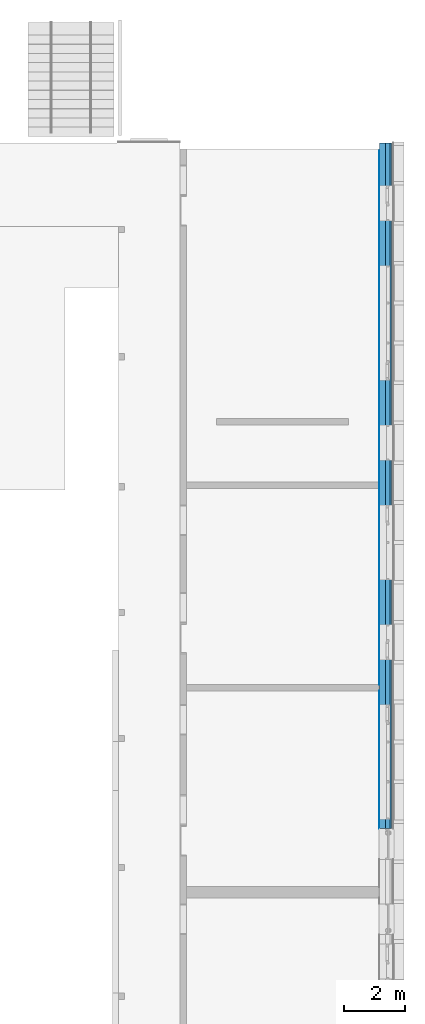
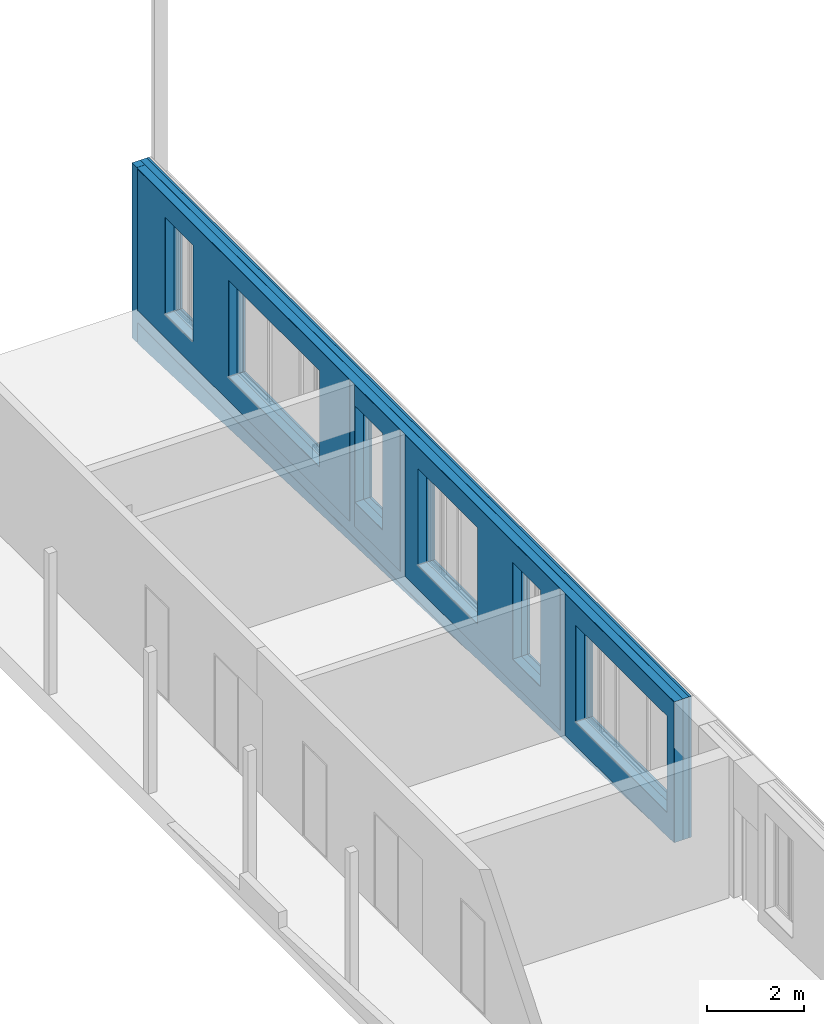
# One storey, part 59 of 65: 4 building element parts, 6 openings, 1 element without a shape of its own.
"""IFC2X3 building model written with IfcOpenShell, lengths in millimetres."""

from ifc_helpers import new_model, entity, si_unit, converted_unit, derived_unit, money_unit, direction, frame, origin_with_axes, origin_2d_with_axis, place, context, subcontext, project, spatial, polyline, rectangle, outline, extrude, boolean, faceted_brep, material, type_object, element, aggregate, save


model = new_model("IFC2X3")

# Units and contexts
model_context = context("Model", 3, precision=0.01, world=origin_with_axes(), true_north=direction((0.0, 1.0)))
body_context = subcontext(model_context, "Body", "Model", "MODEL_VIEW")
ifc_project = project(units=[si_unit("LENGTHUNIT", "METRE", prefix="MILLI"), si_unit("AREAUNIT", "SQUARE_METRE"), si_unit("VOLUMEUNIT", "CUBIC_METRE"), converted_unit("PLANEANGLEUNIT", "DEGREE", entity("IfcPlaneAngleMeasure", 0.0174532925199), si_unit("PLANEANGLEUNIT", "RADIAN"), dimensions=[0, 0, 0, 0, 0, 0, 0]), si_unit("SOLIDANGLEUNIT", "STERADIAN"), money_unit("EUR"), converted_unit("TIMEUNIT", "Year", entity("IfcTimeMeasure", 31556926.0), si_unit("TIMEUNIT", "SECOND"), dimensions=[0, 0, 1, 0, 0, 0, 0]), si_unit("MASSUNIT", "GRAM", prefix="KILO"), si_unit("THERMODYNAMICTEMPERATUREUNIT", "DEGREE_CELSIUS"), si_unit("LUMINOUSINTENSITYUNIT", "LUMEN"), si_unit("ENERGYUNIT", "JOULE", prefix="MEGA"), derived_unit("THERMALCONDUCTANCEUNIT", [(si_unit("POWERUNIT", "WATT"), 1), (si_unit("LENGTHUNIT", "METRE"), -1), (si_unit("THERMODYNAMICTEMPERATUREUNIT", "KELVIN"), -1)]), derived_unit("SPECIFICHEATCAPACITYUNIT", [(si_unit("ENERGYUNIT", "JOULE"), 1), (si_unit("MASSUNIT", "GRAM", prefix="KILO"), -1), (si_unit("THERMODYNAMICTEMPERATUREUNIT", "KELVIN"), -1)]), derived_unit("MASSDENSITYUNIT", [(si_unit("MASSUNIT", "GRAM", prefix="KILO"), 1), (si_unit("VOLUMEUNIT", "CUBIC_METRE"), -1)])], contexts=[model_context])

# Site, building, storey
site_placement = place(None, origin_with_axes())
site = spatial("IfcSite", under=ifc_project, at=site_placement, Name="Puškini 31, Narva", CompositionType="ELEMENT")
building_placement = place(site_placement, origin_with_axes())
building = spatial("IfcBuilding", under=site, at=building_placement, Name="Narva Riigigümnaasium", CompositionType="ELEMENT")
storey_placement = place(building_placement, frame((0.0, 0.0, -1320.0), z_axis=(0.0, 0.0, 1.0), x_axis=(1.0, 0.0, 0.0)))
storey = spatial("IfcBuildingStorey", under=building, at=storey_placement, Name="1.korrus -1.32", CompositionType="ELEMENT", Elevation=-1320.0)

# Wall, openings, building element parts
wall_type = type_object("IfcWallType", Name="G-VS-01 468", PredefinedType="NOTDEFINED")
wall_placement = place(storey_placement, frame((54000.000001, 194900.0, -1980.0), z_axis=(0.0, 0.0, 1.0), x_axis=(0.0, -1.0, 0.0)))
wall = element("IfcWall", 1, at=wall_placement, inside=storey, type_object=wall_type, Name="Välissein")
opening_1_placement = place(wall_placement, frame((16264.8487286, 0.0, 2580.0), z_axis=(0.0, 0.0, 1.0), x_axis=(1.0, 0.0, 0.0)))
element("IfcOpeningElement", 2, at=opening_1_placement, cuts=wall, Name="G-A-04", context=body_context, shape_type="SweptSolid", body=[
    extrude(rectangle(XDim=1150.0, YDim=2430.0, at=origin_2d_with_axis()), frame((0.0, 308.0, 1215.0), z_axis=(0.0, 1.0, 0.0), x_axis=(-1.0, 0.0, 0.0)), (0.0, 0.0, -1.0), 786.0),
    extrude(rectangle(XDim=1150.0, YDim=2430.0, at=origin_2d_with_axis()), frame((0.0, 308.0, 1215.0), z_axis=(0.0, -1.0, 0.0), x_axis=(-1.0, 0.0, 0.0)), (0.0, 0.0, -1.0), 618.0),
])
opening_2_placement = place(wall_placement, frame((9764.84872856, 0.0, 2580.0), z_axis=(0.0, 0.0, 1.0), x_axis=(1.0, 0.0, 0.0)))
element("IfcOpeningElement", 3, at=opening_2_placement, cuts=wall, Name="G-A-40", context=body_context, shape_type="SweptSolid", body=[
    extrude(rectangle(XDim=1150.0, YDim=2430.0, at=origin_2d_with_axis()), frame((0.0, 308.0, 1215.0), z_axis=(0.0, 1.0, 0.0), x_axis=(-1.0, 0.0, 0.0)), (0.0, 0.0, -1.0), 786.0),
    extrude(rectangle(XDim=1150.0, YDim=2430.0, at=origin_2d_with_axis()), frame((0.0, 308.0, 1215.0), z_axis=(0.0, -1.0, 0.0), x_axis=(-1.0, 0.0, 0.0)), (0.0, 0.0, -1.0), 618.0),
])
opening_3_placement = place(wall_placement, frame((13014.8487286, 0.0, 2580.0), z_axis=(0.0, 0.0, 1.0), x_axis=(1.0, 0.0, 0.0)))
element("IfcOpeningElement", 4, at=opening_3_placement, cuts=wall, Name="G-A-14", context=body_context, shape_type="SweptSolid", body=[
    extrude(rectangle(XDim=2450.0, YDim=2430.0, at=origin_2d_with_axis()), frame((0.0, 308.0, 1215.0), z_axis=(0.0, -1.0, 0.0), x_axis=(1.0, 0.0, 0.0)), (0.0, 0.0, 1.0), 786.0),
    extrude(rectangle(XDim=2450.0, YDim=2430.0, at=origin_2d_with_axis()), frame((0.0, 308.0, 1215.0), z_axis=(0.0, 1.0, 0.0), x_axis=(1.0, 0.0, 0.0)), (0.0, 0.0, 1.0), 618.0),
])
opening_4_placement = place(wall_placement, frame((5864.84872856, 0.0, 2580.0), z_axis=(0.0, 0.0, 1.0), x_axis=(1.0, 0.0, 0.0)))
element("IfcOpeningElement", 5, at=opening_4_placement, cuts=wall, Name="G-A-20", context=body_context, shape_type="SweptSolid", body=[
    extrude(rectangle(XDim=3750.0, YDim=2430.0, at=origin_2d_with_axis()), frame((0.0, 308.0, 1215.0), z_axis=(0.0, 1.0, 0.0), x_axis=(-1.0, 0.0, 0.0)), (0.0, 0.0, -1.0), 786.0),
    extrude(rectangle(XDim=3750.0, YDim=2430.0, at=origin_2d_with_axis()), frame((0.0, 308.0, 1215.0), z_axis=(0.0, -1.0, 0.0), x_axis=(-1.0, 0.0, 0.0)), (0.0, 0.0, -1.0), 618.0),
])
opening_5_placement = place(wall_placement, frame((1964.84872856, 0.0, 2580.0), z_axis=(0.0, 0.0, 1.0), x_axis=(1.0, 0.0, 0.0)))
element("IfcOpeningElement", 6, at=opening_5_placement, cuts=wall, Name="G-A-04", context=body_context, shape_type="SweptSolid", body=[
    extrude(rectangle(XDim=1150.0, YDim=2430.0, at=origin_2d_with_axis()), frame((0.0, 308.0, 1215.0), z_axis=(0.0, -1.0, 0.0), x_axis=(1.0, 0.0, 0.0)), (0.0, 0.0, 1.0), 786.0),
    extrude(rectangle(XDim=1150.0, YDim=2430.0, at=origin_2d_with_axis()), frame((0.0, 308.0, 1215.0), z_axis=(0.0, 1.0, 0.0), x_axis=(1.0, 0.0, 0.0)), (0.0, 0.0, 1.0), 618.0),
])
opening_6_placement = place(wall_placement, frame((20164.8487286, 0.0, 2580.0), z_axis=(0.0, 0.0, 1.0), x_axis=(1.0, 0.0, 0.0)))
element("IfcOpeningElement", 7, at=opening_6_placement, cuts=wall, Name="G-A-39", context=body_context, shape_type="SweptSolid", body=[
    extrude(rectangle(XDim=3750.0, YDim=2430.0, at=origin_2d_with_axis()), frame((0.0, 308.0, 1215.0), z_axis=(0.0, -1.0, 0.0), x_axis=(1.0, 0.0, 0.0)), (0.0, 0.0, 1.0), 786.0),
    extrude(rectangle(XDim=3750.0, YDim=2430.0, at=origin_2d_with_axis()), frame((0.0, 308.0, 1215.0), z_axis=(0.0, 1.0, 0.0), x_axis=(1.0, 0.0, 0.0)), (0.0, 0.0, 1.0), 618.0),
])
ifc_material_1 = material(Name="Salto-siseviimistlus-seinad")
building_element_part_1_placement = place(wall_placement, origin_with_axes())
building_element_part_1 = element("IfcBuildingElementPart", 8, at=building_element_part_1_placement, material=ifc_material_1, Name="Salto-siseviimistlus-seinad", context=body_context, shape_type="CSG", body=[
    boolean("DIFFERENCE", boolean("DIFFERENCE", boolean("DIFFERENCE", boolean("DIFFERENCE", boolean("DIFFERENCE", boolean("DIFFERENCE", boolean("DIFFERENCE", extrude(outline(polyline([(0.0, -10.0), (22339.8487286, -10.0), (22339.8487286, 0.0), (0.0, 0.0), (0.0, -10.0)])), origin_with_axes(), (0.0, 0.0, 1.0), 5539.82248474), faceted_brep([(17850.0000157, -10.0, 5535.0), (22339.8487286, -10.0, 5535.0), (22339.8487286, -10.0, 5539.82248474), (0.0, -10.0, 5539.82248474), (0.0, -10.0, 0.0), (22339.8487286, -10.0, 0.0), (22339.8487286, -10.0, 1997.41576605), (21884.8883511, -10.0, 1980.0), (17850.0000157, -10.0, 1980.0), (8979.66614925, -10.0, 1980.0), (250.0, -10.0, 1980.0), (250.0, -10.0, 5535.0), (8979.66614925, -10.0, 5535.0), (11060.0000373, -10.0, 1980.0), (9179.66614925, -10.0, 1980.0), (9179.66614925, -10.0, 5535.0), (11060.0000373, -10.0, 5535.0), (17650.0000157, -10.0, 1980.0), (11260.0000373, -10.0, 1980.0), (11260.0000373, -10.0, 5535.0), (17650.0000157, -10.0, 5535.0), (13786.6102383, -10.0, 1670.0), (250.0, -10.0, 1151.82204717), (250.0, -10.0, 1670.0), (22339.8487286, 0.0, 5535.0), (17850.0000157, 3.80616427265e-07, 5535.0), (22339.8487286, 0.0, 5539.82248474), (0.0, 0.0, 5539.82248474), (0.0, 0.0, 0.0), (22339.8487286, 0.0, 0.0), (22339.8487286, 0.0, 1997.41576605), (21884.8883511, 1.90873095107e-07, 1980.0), (17850.0000157, 1.8836487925e-06, 1980.0), (8979.66614925, 1.8836487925e-06, 1980.0), (250.0, -5.06154407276e-06, 1980.0), (250.0, -1.48313574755e-05, 5535.0), (8979.66614925, 1.12752474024e-06, 5535.0), (11060.0000373, 1.8836487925e-06, 1980.0), (9179.66614925, 1.8836487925e-06, 1980.0), (9179.66614925, 1.11069198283e-06, 5535.0), (11060.0000373, 9.52354639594e-07, 5535.0), (17650.0000157, 1.8836487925e-06, 1980.0), (11260.0000373, 1.8836487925e-06, 1980.0), (11260.0000373, 9.35514776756e-07, 5535.0), (17650.0000157, 3.97456290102e-07, 5535.0), (13786.6102383, -1.62997082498e-06, 1670.0), (250.0, -2.78556200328e-06, 1151.82204717), (250.0, -4.20961043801e-06, 1670.0)], [[[0, 1, 2, 3, 4, 5, 6, 7, 8], [9, 10, 11, 12], [13, 14, 15, 16], [17, 18, 19, 20], [21, 22, 23]], [[24, 1, 0, 25]], [[1, 24, 26, 2]], [[27, 3, 2, 26]], [[27, 28, 4, 3]], [[5, 4, 28, 29]], [[30, 6, 5, 29]], [[30, 31, 7, 6]], [[31, 32, 8, 7]], [[32, 25, 0, 8]], [[33, 34, 10, 9]], [[34, 35, 11, 10]], [[12, 11, 35, 36]], [[36, 33, 9, 12]], [[37, 38, 14, 13]], [[38, 39, 15, 14]], [[16, 15, 39, 40]], [[40, 37, 13, 16]], [[41, 42, 18, 17]], [[42, 43, 19, 18]], [[20, 19, 43, 44]], [[44, 41, 17, 20]], [[45, 46, 22, 21]], [[46, 47, 23, 22]], [[47, 45, 21, 23]], [[31, 30, 29, 28, 27, 26, 24, 25, 32], [33, 36, 35, 34], [37, 40, 39, 38], [41, 44, 43, 42], [46, 45, 47]]])), faceted_brep([(22339.8487286, 199.999993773, 5535.0), (199.999968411, 199.999993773, 5535.0), (199.999968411, 199.999993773, 5539.82248474), (22339.8487286, 200.0, 5539.82248474), (22339.8487286, 0.0, 5535.0), (199.999968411, 0.0, 5535.0), (199.999968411, 1.86678761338e-06, 5539.82248474), (22339.8487286, 0.0, 5539.82248474)], [[[0, 1, 2, 3]], [[1, 0, 4, 5]], [[6, 2, 1, 5]], [[2, 6, 7, 3]], [[4, 0, 3, 7]], [[4, 7, 6, 5]]])), faceted_brep([(0.0, 3.88389764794e-07, 1142.25211157), (0.0, 200.000002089, 1142.25211157), (0.0, 200.0, 0.0), (0.0, 0.0, 0.0), (22339.8487286, 199.999997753, 1997.41576605), (250.0, -2.78556200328e-06, 1151.82204717), (13786.6102383, -1.62997082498e-06, 1670.0), (21884.8883511, 1.90873095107e-07, 1980.0), (22339.8487286, 0.0, 1997.41576605), (22339.8487286, 200.0, 0.0), (22339.8487286, 0.0, 0.0)], [[[0, 1, 2, 3]], [[4, 1, 0, 5, 6, 7, 8]], [[1, 4, 9, 2]], [[10, 3, 2, 9]], [[5, 0, 3, 10, 8, 7, 6]], [[4, 8, 10, 9]]])), faceted_brep([(0.0, 200.000002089, 1142.25211157), (0.0, 350.0, 1142.25211157), (0.0, 350.0, 0.0), (0.0, 200.0, 0.0), (22339.8487286, 350.0, 1997.41576605), (22339.8487286, 199.999997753, 1997.41576605), (22339.8487286, 350.0, 0.0), (22339.8487286, 200.0, 0.0)], [[[0, 1, 2, 3]], [[4, 1, 0, 5]], [[1, 4, 6, 2]], [[7, 3, 2, 6]], [[5, 0, 3, 7]], [[4, 5, 7, 6]]])), faceted_brep([(0.0, 350.0, 1142.25211157), (0.0, 399.999997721, 1142.25211157), (0.0, 400.0, 0.0), (0.0, 350.0, 0.0), (22339.8487286, 400.0, 1997.41576605), (22339.8487286, 350.0, 1997.41576605), (22339.8487286, 400.0, 0.0), (22339.8487286, 350.0, 0.0)], [[[0, 1, 2, 3]], [[4, 1, 0, 5]], [[1, 4, 6, 2]], [[7, 3, 2, 6]], [[5, 0, 3, 7]], [[4, 5, 7, 6]]])), faceted_brep([(0.0, 399.999997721, 1142.25211157), (0.0, 449.999999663, 1142.25211157), (0.0, 450.0, 0.0), (0.0, 400.0, 0.0), (22339.8487286, 450.0, 1997.41576605), (22339.8487286, 400.0, 1997.41576605), (22339.8487286, 450.0, 0.0), (22339.8487286, 400.0, 0.0)], [[[0, 1, 2, 3]], [[4, 1, 0, 5]], [[1, 4, 6, 2]], [[7, 3, 2, 6]], [[5, 0, 3, 7]], [[4, 5, 7, 6]]])), faceted_brep([(0.0, 449.999999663, 1142.25211157), (0.0, 457.999993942, 1142.25211157), (0.0, 458.0, 0.0), (0.0, 450.0, 0.0), (22339.8487286, 458.0, 1997.41576605), (22339.8487286, 450.0, 1997.41576605), (22339.8487286, 458.0, 0.0), (22339.8487286, 450.0, 0.0)], [[[0, 1, 2, 3]], [[4, 1, 0, 5]], [[1, 4, 6, 2]], [[7, 3, 2, 6]], [[5, 0, 3, 7]], [[4, 5, 7, 6]]])),
])
ifc_material_2 = material(Name="Betoon element")
building_element_part_2_placement = place(wall_placement, origin_with_axes())
building_element_part_2 = element("IfcBuildingElementPart", 9, at=building_element_part_2_placement, material=ifc_material_2, Name="Betoon element", context=body_context, shape_type="CSG", body=[
    boolean("DIFFERENCE", boolean("DIFFERENCE", boolean("DIFFERENCE", boolean("DIFFERENCE", boolean("DIFFERENCE", boolean("DIFFERENCE", boolean("DIFFERENCE", extrude(outline(polyline([(0.0, 0.0), (22339.8487286, 0.0), (22339.8487286, 200.0), (0.0, 200.0), (0.0, 0.0)])), origin_with_axes(), (0.0, 0.0, 1.0), 5539.82248474), faceted_brep([(17850.0000157, -10.0, 5535.0), (22339.8487286, -10.0, 5535.0), (22339.8487286, -10.0, 5539.82248474), (0.0, -10.0, 5539.82248474), (0.0, -10.0, 0.0), (22339.8487286, -10.0, 0.0), (22339.8487286, -10.0, 1997.41576605), (21884.8883511, -10.0, 1980.0), (17850.0000157, -10.0, 1980.0), (8979.66614925, -10.0, 1980.0), (250.0, -10.0, 1980.0), (250.0, -10.0, 5535.0), (8979.66614925, -10.0, 5535.0), (11060.0000373, -10.0, 1980.0), (9179.66614925, -10.0, 1980.0), (9179.66614925, -10.0, 5535.0), (11060.0000373, -10.0, 5535.0), (17650.0000157, -10.0, 1980.0), (11260.0000373, -10.0, 1980.0), (11260.0000373, -10.0, 5535.0), (17650.0000157, -10.0, 5535.0), (13786.6102383, -10.0, 1670.0), (250.0, -10.0, 1151.82204717), (250.0, -10.0, 1670.0), (22339.8487286, 0.0, 5535.0), (17850.0000157, 3.80616427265e-07, 5535.0), (22339.8487286, 0.0, 5539.82248474), (0.0, 0.0, 5539.82248474), (0.0, 0.0, 0.0), (22339.8487286, 0.0, 0.0), (22339.8487286, 0.0, 1997.41576605), (21884.8883511, 1.90873095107e-07, 1980.0), (17850.0000157, 1.8836487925e-06, 1980.0), (8979.66614925, 1.8836487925e-06, 1980.0), (250.0, -5.06154407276e-06, 1980.0), (250.0, -1.48313574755e-05, 5535.0), (8979.66614925, 1.12752474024e-06, 5535.0), (11060.0000373, 1.8836487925e-06, 1980.0), (9179.66614925, 1.8836487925e-06, 1980.0), (9179.66614925, 1.11069198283e-06, 5535.0), (11060.0000373, 9.52354639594e-07, 5535.0), (17650.0000157, 1.8836487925e-06, 1980.0), (11260.0000373, 1.8836487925e-06, 1980.0), (11260.0000373, 9.35514776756e-07, 5535.0), (17650.0000157, 3.97456290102e-07, 5535.0), (13786.6102383, -1.62997082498e-06, 1670.0), (250.0, -2.78556200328e-06, 1151.82204717), (250.0, -4.20961043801e-06, 1670.0)], [[[0, 1, 2, 3, 4, 5, 6, 7, 8], [9, 10, 11, 12], [13, 14, 15, 16], [17, 18, 19, 20], [21, 22, 23]], [[24, 1, 0, 25]], [[1, 24, 26, 2]], [[27, 3, 2, 26]], [[27, 28, 4, 3]], [[5, 4, 28, 29]], [[30, 6, 5, 29]], [[30, 31, 7, 6]], [[31, 32, 8, 7]], [[32, 25, 0, 8]], [[33, 34, 10, 9]], [[34, 35, 11, 10]], [[12, 11, 35, 36]], [[36, 33, 9, 12]], [[37, 38, 14, 13]], [[38, 39, 15, 14]], [[16, 15, 39, 40]], [[40, 37, 13, 16]], [[41, 42, 18, 17]], [[42, 43, 19, 18]], [[20, 19, 43, 44]], [[44, 41, 17, 20]], [[45, 46, 22, 21]], [[46, 47, 23, 22]], [[47, 45, 21, 23]], [[31, 30, 29, 28, 27, 26, 24, 25, 32], [33, 36, 35, 34], [37, 40, 39, 38], [41, 44, 43, 42], [46, 45, 47]]])), faceted_brep([(22339.8487286, 199.999993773, 5535.0), (199.999968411, 199.999993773, 5535.0), (199.999968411, 199.999993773, 5539.82248474), (22339.8487286, 200.0, 5539.82248474), (22339.8487286, 0.0, 5535.0), (199.999968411, 0.0, 5535.0), (199.999968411, 1.86678761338e-06, 5539.82248474), (22339.8487286, 0.0, 5539.82248474)], [[[0, 1, 2, 3]], [[1, 0, 4, 5]], [[6, 2, 1, 5]], [[2, 6, 7, 3]], [[4, 0, 3, 7]], [[4, 7, 6, 5]]])), faceted_brep([(0.0, 3.88389764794e-07, 1142.25211157), (0.0, 200.000002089, 1142.25211157), (0.0, 200.0, 0.0), (0.0, 0.0, 0.0), (22339.8487286, 199.999997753, 1997.41576605), (250.0, -2.78556200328e-06, 1151.82204717), (13786.6102383, -1.62997082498e-06, 1670.0), (21884.8883511, 1.90873095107e-07, 1980.0), (22339.8487286, 0.0, 1997.41576605), (22339.8487286, 200.0, 0.0), (22339.8487286, 0.0, 0.0)], [[[0, 1, 2, 3]], [[4, 1, 0, 5, 6, 7, 8]], [[1, 4, 9, 2]], [[10, 3, 2, 9]], [[5, 0, 3, 10, 8, 7, 6]], [[4, 8, 10, 9]]])), faceted_brep([(0.0, 200.000002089, 1142.25211157), (0.0, 350.0, 1142.25211157), (0.0, 350.0, 0.0), (0.0, 200.0, 0.0), (22339.8487286, 350.0, 1997.41576605), (22339.8487286, 199.999997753, 1997.41576605), (22339.8487286, 350.0, 0.0), (22339.8487286, 200.0, 0.0)], [[[0, 1, 2, 3]], [[4, 1, 0, 5]], [[1, 4, 6, 2]], [[7, 3, 2, 6]], [[5, 0, 3, 7]], [[4, 5, 7, 6]]])), faceted_brep([(0.0, 350.0, 1142.25211157), (0.0, 399.999997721, 1142.25211157), (0.0, 400.0, 0.0), (0.0, 350.0, 0.0), (22339.8487286, 400.0, 1997.41576605), (22339.8487286, 350.0, 1997.41576605), (22339.8487286, 400.0, 0.0), (22339.8487286, 350.0, 0.0)], [[[0, 1, 2, 3]], [[4, 1, 0, 5]], [[1, 4, 6, 2]], [[7, 3, 2, 6]], [[5, 0, 3, 7]], [[4, 5, 7, 6]]])), faceted_brep([(0.0, 399.999997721, 1142.25211157), (0.0, 449.999999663, 1142.25211157), (0.0, 450.0, 0.0), (0.0, 400.0, 0.0), (22339.8487286, 450.0, 1997.41576605), (22339.8487286, 400.0, 1997.41576605), (22339.8487286, 450.0, 0.0), (22339.8487286, 400.0, 0.0)], [[[0, 1, 2, 3]], [[4, 1, 0, 5]], [[1, 4, 6, 2]], [[7, 3, 2, 6]], [[5, 0, 3, 7]], [[4, 5, 7, 6]]])), faceted_brep([(0.0, 449.999999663, 1142.25211157), (0.0, 457.999993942, 1142.25211157), (0.0, 458.0, 0.0), (0.0, 450.0, 0.0), (22339.8487286, 458.0, 1997.41576605), (22339.8487286, 450.0, 1997.41576605), (22339.8487286, 458.0, 0.0), (22339.8487286, 450.0, 0.0)], [[[0, 1, 2, 3]], [[4, 1, 0, 5]], [[1, 4, 6, 2]], [[7, 3, 2, 6]], [[5, 0, 3, 7]], [[4, 5, 7, 6]]])),
])
ifc_material_3 = material(Name="Salto-PIR soojustus")
building_element_part_3_placement = place(wall_placement, origin_with_axes())
building_element_part_3 = element("IfcBuildingElementPart", 10, at=building_element_part_3_placement, material=ifc_material_3, Name="Salto-PIR soojustus", context=body_context, shape_type="CSG", body=[
    boolean("DIFFERENCE", boolean("DIFFERENCE", boolean("DIFFERENCE", boolean("DIFFERENCE", boolean("DIFFERENCE", boolean("DIFFERENCE", boolean("DIFFERENCE", extrude(outline(polyline([(0.0, 200.0), (22339.8487286, 200.0), (22339.8487286, 350.0), (0.0, 350.0), (0.0, 200.0)])), origin_with_axes(), (0.0, 0.0, 1.0), 5539.82248474), faceted_brep([(17850.0000157, -10.0, 5535.0), (22339.8487286, -10.0, 5535.0), (22339.8487286, -10.0, 5539.82248474), (0.0, -10.0, 5539.82248474), (0.0, -10.0, 0.0), (22339.8487286, -10.0, 0.0), (22339.8487286, -10.0, 1997.41576605), (21884.8883511, -10.0, 1980.0), (17850.0000157, -10.0, 1980.0), (8979.66614925, -10.0, 1980.0), (250.0, -10.0, 1980.0), (250.0, -10.0, 5535.0), (8979.66614925, -10.0, 5535.0), (11060.0000373, -10.0, 1980.0), (9179.66614925, -10.0, 1980.0), (9179.66614925, -10.0, 5535.0), (11060.0000373, -10.0, 5535.0), (17650.0000157, -10.0, 1980.0), (11260.0000373, -10.0, 1980.0), (11260.0000373, -10.0, 5535.0), (17650.0000157, -10.0, 5535.0), (13786.6102383, -10.0, 1670.0), (250.0, -10.0, 1151.82204717), (250.0, -10.0, 1670.0), (22339.8487286, 0.0, 5535.0), (17850.0000157, 3.80616427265e-07, 5535.0), (22339.8487286, 0.0, 5539.82248474), (0.0, 0.0, 5539.82248474), (0.0, 0.0, 0.0), (22339.8487286, 0.0, 0.0), (22339.8487286, 0.0, 1997.41576605), (21884.8883511, 1.90873095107e-07, 1980.0), (17850.0000157, 1.8836487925e-06, 1980.0), (8979.66614925, 1.8836487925e-06, 1980.0), (250.0, -5.06154407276e-06, 1980.0), (250.0, -1.48313574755e-05, 5535.0), (8979.66614925, 1.12752474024e-06, 5535.0), (11060.0000373, 1.8836487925e-06, 1980.0), (9179.66614925, 1.8836487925e-06, 1980.0), (9179.66614925, 1.11069198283e-06, 5535.0), (11060.0000373, 9.52354639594e-07, 5535.0), (17650.0000157, 1.8836487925e-06, 1980.0), (11260.0000373, 1.8836487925e-06, 1980.0), (11260.0000373, 9.35514776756e-07, 5535.0), (17650.0000157, 3.97456290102e-07, 5535.0), (13786.6102383, -1.62997082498e-06, 1670.0), (250.0, -2.78556200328e-06, 1151.82204717), (250.0, -4.20961043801e-06, 1670.0)], [[[0, 1, 2, 3, 4, 5, 6, 7, 8], [9, 10, 11, 12], [13, 14, 15, 16], [17, 18, 19, 20], [21, 22, 23]], [[24, 1, 0, 25]], [[1, 24, 26, 2]], [[27, 3, 2, 26]], [[27, 28, 4, 3]], [[5, 4, 28, 29]], [[30, 6, 5, 29]], [[30, 31, 7, 6]], [[31, 32, 8, 7]], [[32, 25, 0, 8]], [[33, 34, 10, 9]], [[34, 35, 11, 10]], [[12, 11, 35, 36]], [[36, 33, 9, 12]], [[37, 38, 14, 13]], [[38, 39, 15, 14]], [[16, 15, 39, 40]], [[40, 37, 13, 16]], [[41, 42, 18, 17]], [[42, 43, 19, 18]], [[20, 19, 43, 44]], [[44, 41, 17, 20]], [[45, 46, 22, 21]], [[46, 47, 23, 22]], [[47, 45, 21, 23]], [[31, 30, 29, 28, 27, 26, 24, 25, 32], [33, 36, 35, 34], [37, 40, 39, 38], [41, 44, 43, 42], [46, 45, 47]]])), faceted_brep([(22339.8487286, 199.999993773, 5535.0), (199.999968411, 199.999993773, 5535.0), (199.999968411, 199.999993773, 5539.82248474), (22339.8487286, 200.0, 5539.82248474), (22339.8487286, 0.0, 5535.0), (199.999968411, 0.0, 5535.0), (199.999968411, 1.86678761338e-06, 5539.82248474), (22339.8487286, 0.0, 5539.82248474)], [[[0, 1, 2, 3]], [[1, 0, 4, 5]], [[6, 2, 1, 5]], [[2, 6, 7, 3]], [[4, 0, 3, 7]], [[4, 7, 6, 5]]])), faceted_brep([(0.0, 3.88389764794e-07, 1142.25211157), (0.0, 200.000002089, 1142.25211157), (0.0, 200.0, 0.0), (0.0, 0.0, 0.0), (22339.8487286, 199.999997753, 1997.41576605), (250.0, -2.78556200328e-06, 1151.82204717), (13786.6102383, -1.62997082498e-06, 1670.0), (21884.8883511, 1.90873095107e-07, 1980.0), (22339.8487286, 0.0, 1997.41576605), (22339.8487286, 200.0, 0.0), (22339.8487286, 0.0, 0.0)], [[[0, 1, 2, 3]], [[4, 1, 0, 5, 6, 7, 8]], [[1, 4, 9, 2]], [[10, 3, 2, 9]], [[5, 0, 3, 10, 8, 7, 6]], [[4, 8, 10, 9]]])), faceted_brep([(0.0, 200.000002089, 1142.25211157), (0.0, 350.0, 1142.25211157), (0.0, 350.0, 0.0), (0.0, 200.0, 0.0), (22339.8487286, 350.0, 1997.41576605), (22339.8487286, 199.999997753, 1997.41576605), (22339.8487286, 350.0, 0.0), (22339.8487286, 200.0, 0.0)], [[[0, 1, 2, 3]], [[4, 1, 0, 5]], [[1, 4, 6, 2]], [[7, 3, 2, 6]], [[5, 0, 3, 7]], [[4, 5, 7, 6]]])), faceted_brep([(0.0, 350.0, 1142.25211157), (0.0, 399.999997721, 1142.25211157), (0.0, 400.0, 0.0), (0.0, 350.0, 0.0), (22339.8487286, 400.0, 1997.41576605), (22339.8487286, 350.0, 1997.41576605), (22339.8487286, 400.0, 0.0), (22339.8487286, 350.0, 0.0)], [[[0, 1, 2, 3]], [[4, 1, 0, 5]], [[1, 4, 6, 2]], [[7, 3, 2, 6]], [[5, 0, 3, 7]], [[4, 5, 7, 6]]])), faceted_brep([(0.0, 399.999997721, 1142.25211157), (0.0, 449.999999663, 1142.25211157), (0.0, 450.0, 0.0), (0.0, 400.0, 0.0), (22339.8487286, 450.0, 1997.41576605), (22339.8487286, 400.0, 1997.41576605), (22339.8487286, 450.0, 0.0), (22339.8487286, 400.0, 0.0)], [[[0, 1, 2, 3]], [[4, 1, 0, 5]], [[1, 4, 6, 2]], [[7, 3, 2, 6]], [[5, 0, 3, 7]], [[4, 5, 7, 6]]])), faceted_brep([(0.0, 449.999999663, 1142.25211157), (0.0, 457.999993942, 1142.25211157), (0.0, 458.0, 0.0), (0.0, 450.0, 0.0), (22339.8487286, 458.0, 1997.41576605), (22339.8487286, 450.0, 1997.41576605), (22339.8487286, 458.0, 0.0), (22339.8487286, 450.0, 0.0)], [[[0, 1, 2, 3]], [[4, 1, 0, 5]], [[1, 4, 6, 2]], [[7, 3, 2, 6]], [[5, 0, 3, 7]], [[4, 5, 7, 6]]])),
])
building_element_part_4_placement = place(wall_placement, origin_with_axes())
building_element_part_4 = element("IfcBuildingElementPart", 11, at=building_element_part_4_placement, material=ifc_material_3, Name="Salto-PIR soojustus", context=body_context, shape_type="CSG", body=[
    boolean("DIFFERENCE", boolean("DIFFERENCE", boolean("DIFFERENCE", boolean("DIFFERENCE", boolean("DIFFERENCE", boolean("DIFFERENCE", boolean("DIFFERENCE", extrude(outline(polyline([(0.0, 350.0), (22339.8487286, 350.0), (22339.8487286, 400.0), (0.0, 400.0), (0.0, 350.0)])), origin_with_axes(), (0.0, 0.0, 1.0), 5539.82248474), faceted_brep([(17850.0000157, -10.0, 5535.0), (22339.8487286, -10.0, 5535.0), (22339.8487286, -10.0, 5539.82248474), (0.0, -10.0, 5539.82248474), (0.0, -10.0, 0.0), (22339.8487286, -10.0, 0.0), (22339.8487286, -10.0, 1997.41576605), (21884.8883511, -10.0, 1980.0), (17850.0000157, -10.0, 1980.0), (8979.66614925, -10.0, 1980.0), (250.0, -10.0, 1980.0), (250.0, -10.0, 5535.0), (8979.66614925, -10.0, 5535.0), (11060.0000373, -10.0, 1980.0), (9179.66614925, -10.0, 1980.0), (9179.66614925, -10.0, 5535.0), (11060.0000373, -10.0, 5535.0), (17650.0000157, -10.0, 1980.0), (11260.0000373, -10.0, 1980.0), (11260.0000373, -10.0, 5535.0), (17650.0000157, -10.0, 5535.0), (13786.6102383, -10.0, 1670.0), (250.0, -10.0, 1151.82204717), (250.0, -10.0, 1670.0), (22339.8487286, 0.0, 5535.0), (17850.0000157, 3.80616427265e-07, 5535.0), (22339.8487286, 0.0, 5539.82248474), (0.0, 0.0, 5539.82248474), (0.0, 0.0, 0.0), (22339.8487286, 0.0, 0.0), (22339.8487286, 0.0, 1997.41576605), (21884.8883511, 1.90873095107e-07, 1980.0), (17850.0000157, 1.8836487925e-06, 1980.0), (8979.66614925, 1.8836487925e-06, 1980.0), (250.0, -5.06154407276e-06, 1980.0), (250.0, -1.48313574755e-05, 5535.0), (8979.66614925, 1.12752474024e-06, 5535.0), (11060.0000373, 1.8836487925e-06, 1980.0), (9179.66614925, 1.8836487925e-06, 1980.0), (9179.66614925, 1.11069198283e-06, 5535.0), (11060.0000373, 9.52354639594e-07, 5535.0), (17650.0000157, 1.8836487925e-06, 1980.0), (11260.0000373, 1.8836487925e-06, 1980.0), (11260.0000373, 9.35514776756e-07, 5535.0), (17650.0000157, 3.97456290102e-07, 5535.0), (13786.6102383, -1.62997082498e-06, 1670.0), (250.0, -2.78556200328e-06, 1151.82204717), (250.0, -4.20961043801e-06, 1670.0)], [[[0, 1, 2, 3, 4, 5, 6, 7, 8], [9, 10, 11, 12], [13, 14, 15, 16], [17, 18, 19, 20], [21, 22, 23]], [[24, 1, 0, 25]], [[1, 24, 26, 2]], [[27, 3, 2, 26]], [[27, 28, 4, 3]], [[5, 4, 28, 29]], [[30, 6, 5, 29]], [[30, 31, 7, 6]], [[31, 32, 8, 7]], [[32, 25, 0, 8]], [[33, 34, 10, 9]], [[34, 35, 11, 10]], [[12, 11, 35, 36]], [[36, 33, 9, 12]], [[37, 38, 14, 13]], [[38, 39, 15, 14]], [[16, 15, 39, 40]], [[40, 37, 13, 16]], [[41, 42, 18, 17]], [[42, 43, 19, 18]], [[20, 19, 43, 44]], [[44, 41, 17, 20]], [[45, 46, 22, 21]], [[46, 47, 23, 22]], [[47, 45, 21, 23]], [[31, 30, 29, 28, 27, 26, 24, 25, 32], [33, 36, 35, 34], [37, 40, 39, 38], [41, 44, 43, 42], [46, 45, 47]]])), faceted_brep([(22339.8487286, 199.999993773, 5535.0), (199.999968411, 199.999993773, 5535.0), (199.999968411, 199.999993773, 5539.82248474), (22339.8487286, 200.0, 5539.82248474), (22339.8487286, 0.0, 5535.0), (199.999968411, 0.0, 5535.0), (199.999968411, 1.86678761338e-06, 5539.82248474), (22339.8487286, 0.0, 5539.82248474)], [[[0, 1, 2, 3]], [[1, 0, 4, 5]], [[6, 2, 1, 5]], [[2, 6, 7, 3]], [[4, 0, 3, 7]], [[4, 7, 6, 5]]])), faceted_brep([(0.0, 3.88389764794e-07, 1142.25211157), (0.0, 200.000002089, 1142.25211157), (0.0, 200.0, 0.0), (0.0, 0.0, 0.0), (22339.8487286, 199.999997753, 1997.41576605), (250.0, -2.78556200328e-06, 1151.82204717), (13786.6102383, -1.62997082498e-06, 1670.0), (21884.8883511, 1.90873095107e-07, 1980.0), (22339.8487286, 0.0, 1997.41576605), (22339.8487286, 200.0, 0.0), (22339.8487286, 0.0, 0.0)], [[[0, 1, 2, 3]], [[4, 1, 0, 5, 6, 7, 8]], [[1, 4, 9, 2]], [[10, 3, 2, 9]], [[5, 0, 3, 10, 8, 7, 6]], [[4, 8, 10, 9]]])), faceted_brep([(0.0, 200.000002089, 1142.25211157), (0.0, 350.0, 1142.25211157), (0.0, 350.0, 0.0), (0.0, 200.0, 0.0), (22339.8487286, 350.0, 1997.41576605), (22339.8487286, 199.999997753, 1997.41576605), (22339.8487286, 350.0, 0.0), (22339.8487286, 200.0, 0.0)], [[[0, 1, 2, 3]], [[4, 1, 0, 5]], [[1, 4, 6, 2]], [[7, 3, 2, 6]], [[5, 0, 3, 7]], [[4, 5, 7, 6]]])), faceted_brep([(0.0, 350.0, 1142.25211157), (0.0, 399.999997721, 1142.25211157), (0.0, 400.0, 0.0), (0.0, 350.0, 0.0), (22339.8487286, 400.0, 1997.41576605), (22339.8487286, 350.0, 1997.41576605), (22339.8487286, 400.0, 0.0), (22339.8487286, 350.0, 0.0)], [[[0, 1, 2, 3]], [[4, 1, 0, 5]], [[1, 4, 6, 2]], [[7, 3, 2, 6]], [[5, 0, 3, 7]], [[4, 5, 7, 6]]])), faceted_brep([(0.0, 399.999997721, 1142.25211157), (0.0, 449.999999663, 1142.25211157), (0.0, 450.0, 0.0), (0.0, 400.0, 0.0), (22339.8487286, 450.0, 1997.41576605), (22339.8487286, 400.0, 1997.41576605), (22339.8487286, 450.0, 0.0), (22339.8487286, 400.0, 0.0)], [[[0, 1, 2, 3]], [[4, 1, 0, 5]], [[1, 4, 6, 2]], [[7, 3, 2, 6]], [[5, 0, 3, 7]], [[4, 5, 7, 6]]])), faceted_brep([(0.0, 449.999999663, 1142.25211157), (0.0, 457.999993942, 1142.25211157), (0.0, 458.0, 0.0), (0.0, 450.0, 0.0), (22339.8487286, 458.0, 1997.41576605), (22339.8487286, 450.0, 1997.41576605), (22339.8487286, 458.0, 0.0), (22339.8487286, 450.0, 0.0)], [[[0, 1, 2, 3]], [[4, 1, 0, 5]], [[1, 4, 6, 2]], [[7, 3, 2, 6]], [[5, 0, 3, 7]], [[4, 5, 7, 6]]])),
])
aggregate(wall, [building_element_part_1, building_element_part_2, building_element_part_3, building_element_part_4])

save(model, "model.ifc")
